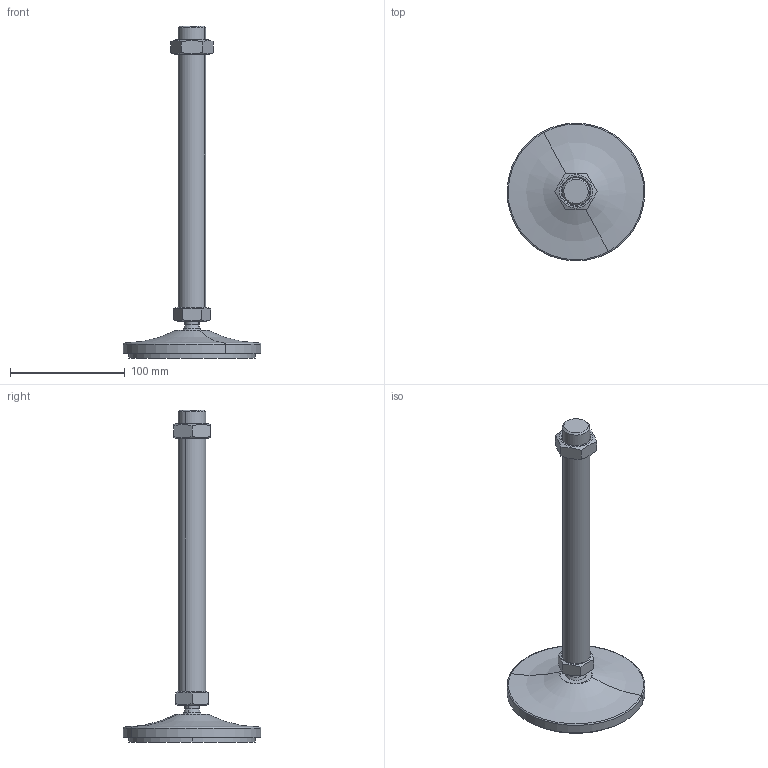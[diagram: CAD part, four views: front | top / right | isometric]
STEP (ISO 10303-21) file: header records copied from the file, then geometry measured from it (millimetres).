
FILE_DESCRIPTION(('CATIA V5 STEP Exchange'),'2;1');
FILE_NAME('C:\Users\ALI OZGUN\Desktop\alhan\saplama2\560122429AV.stp','2017-09-21T10:32:27+00:00',('none'),('none'),'CATIA Version 5 Release 21 GA (IN-10)','CATIA V5 STEP AP203','none');
FILE_SCHEMA(('CONFIG_CONTROL_DESIGN'));
Length unit declared in the file: millimetre
Products named in the file (1): 560122429AV
Bounding box: 119.97 x 119.97 x 289 mm (x, y, z)
Volume: 297408.2 mm3; surface area: 75047.6 mm2
Topology: 4 solids, 4 shells, 64 faces, 142 edges, 87 vertices
Faces by surface type: plane 22, cylinder 16, cone 16, torus 4, revolution 4, sphere 2
Entity records: 1936 total; most frequent: CARTESIAN_POINT 628, ORIENTED_EDGE 280, DIRECTION 197, EDGE_CURVE 140, AXIS2_PLACEMENT_3D 106, VERTEX_POINT 87, EDGE_LOOP 71, ADVANCED_FACE 64
